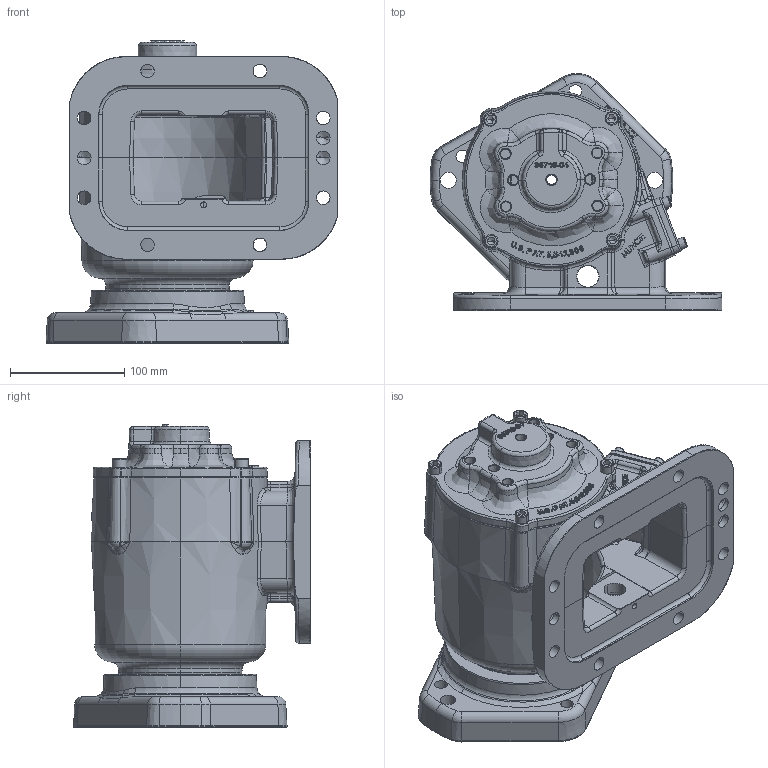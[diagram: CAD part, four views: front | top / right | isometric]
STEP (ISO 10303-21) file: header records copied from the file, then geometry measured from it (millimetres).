
FILE_DESCRIPTION (( 'STEP AP203' ), '1' );
FILE_NAME ('CS8S-XXXXX-E1EX.STEP', '2023-04-28T14:46:10', ( '' ), ( '' ), 'SwSTEP 2.0', 'SolidWorks 2021', '' );
FILE_SCHEMA (( 'CONFIG_CONTROL_DESIGN' ));
Length unit declared in the file: inch
Products named in the file (10): 10T21017; 15T36717; 19T41118; 14TA5380_Config1; 11T37795; 01T42182_01T42182; 16t34000; 14T38719; 19T35237; CS8S-XXXXX-E1EX
Assembly tree (15 placements, depth 3):
  CS8S-XXXXX-E1EX
    16t34000
    15T36717
    01T42182_01T42182
    10T21017
    14TA5380_Config1
      14T38719
      11T37795
    19T35237  x4
    19T41118  x4
Bounding box: 255.78 x 207.94 x 265.19 mm (x, y, z)
Volume: 1945062.7 mm3; surface area: 486466.5 mm2
Topology: 14 solids, 15 shells, 2134 faces, 5475 edges, 3377 vertices
Faces by surface type: bspline 800, plane 506, cylinder 402, cone 220, torus 182, sphere 24
Entity records: 99259 total; most frequent: CARTESIAN_POINT 55005, ORIENTED_EDGE 10134, DIRECTION 7097, EDGE_CURVE 5067, VERTEX_POINT 3164, AXIS2_PLACEMENT_3D 2609, EDGE_LOOP 2227, ADVANCED_FACE 2002
